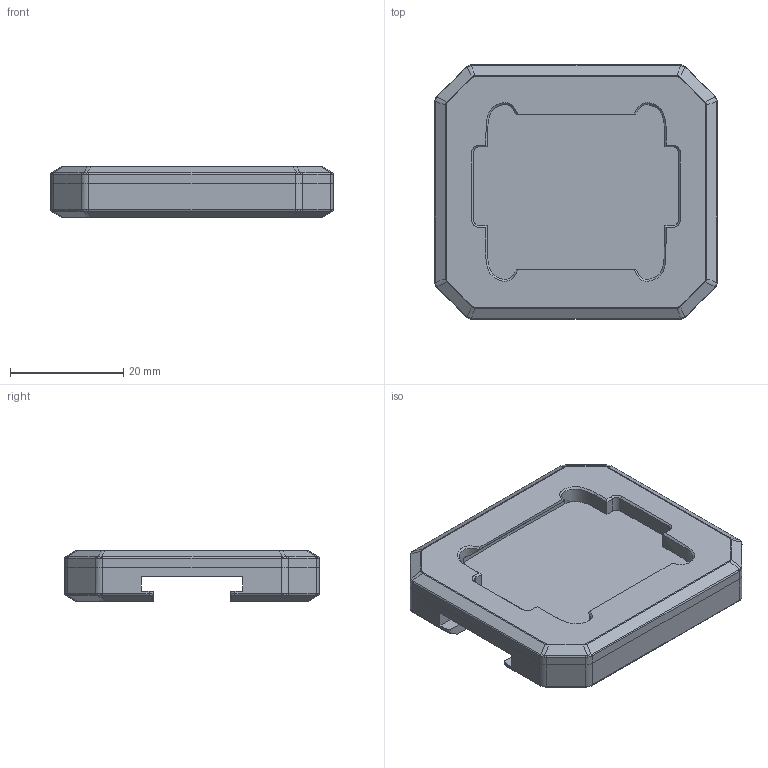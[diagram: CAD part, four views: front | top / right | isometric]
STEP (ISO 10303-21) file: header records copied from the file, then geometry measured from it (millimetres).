
FILE_DESCRIPTION(/* description */ (''),/* implementation_level */ '2;1');
FILE_NAME(/* name */ 'DECKMA~1',/* time_stamp */ '2023-02-14T16:49:13+08:00',/* author */ (''),/* organization */ (''),/* preprocessor_version */ 'ST-DEVELOPER v16.5',/* originating_system */ '',/* authorisation */ '');
FILE_SCHEMA (('CONFIG_CONTROL_DESIGN'));
Length unit declared in the file: millimetre
Products named in the file (1): Document
Bounding box: 50 x 45 x 9 mm (x, y, z)
Volume: 12661.3 mm3; surface area: 6881.7 mm2
Topology: 1 solids, 1 shells, 226 faces, 540 edges, 317 vertices
Faces by surface type: bspline 105, cylinder 76, plane 45
Entity records: 7675 total; most frequent: CARTESIAN_POINT 4370, ORIENTED_EDGE 1080, EDGE_CURVE 540, VERTEX_POINT 317, EDGE_LOOP 227, ADVANCED_FACE 226, FACE_OUTER_BOUND 226, B_SPLINE_CURVE_WITH_KNOTS 196
